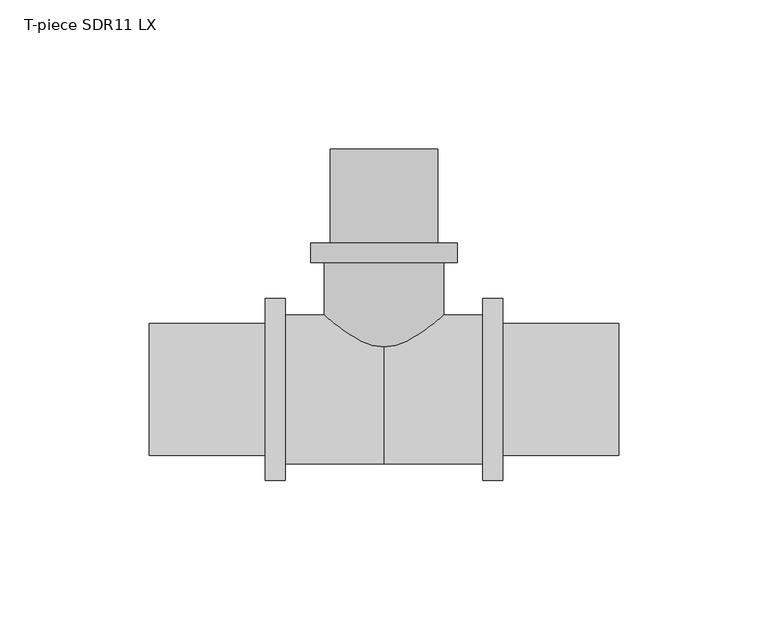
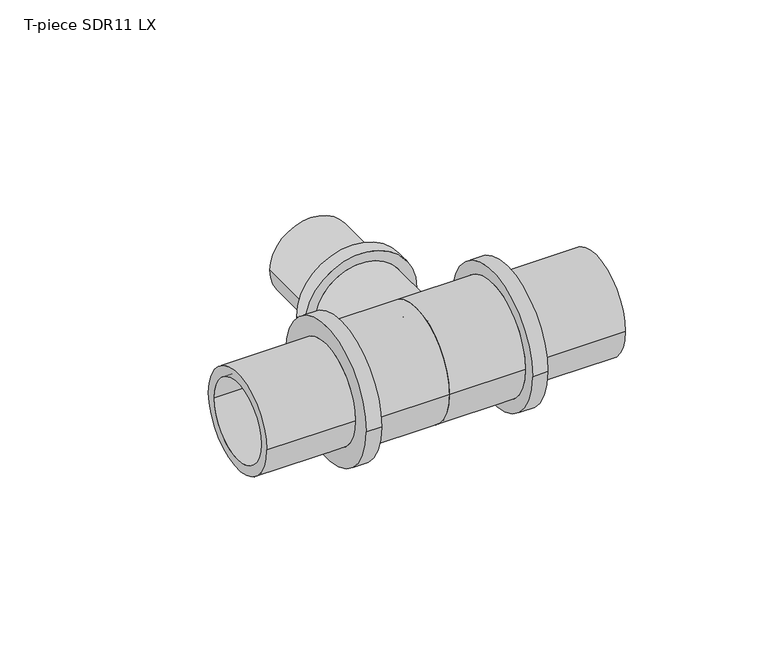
"""IFC4 building model written with IfcOpenShell, lengths in millimetres: pipe fitting geometry, T-piece SDR11 LX : T-piece LX SDR11 LX."""

from ifc_helpers import new_model, si_unit, point, frame, origin, place, context, project, spatial, polyline, circle_curve, ellipse_curve, trimmed, source, transform, mapped, element, save
from ifc_brep_helpers import plane_surface, cylinder_surface, revolved_surface, advanced_brep


def t_piece_sdr11_lx_b870d911(model_context):
    return source(origin(), model_context, "Body", "AdvancedBrep", [
        advanced_brep(
        [(20.0, 2.0957608, 0.0), (-20.0, 2.0957608, 0.0), (-20.0, 42.5, 0.0), (20.0, 42.5, 0.0), (13.75, 80.5, 0.0), (-13.75, 80.5, 0.0), (-13.75, 0.0, 0.0), (13.75, 0.0, 0.0), (18.0, 49.0, 0.0), (-18.0, 49.0, 0.0), (-18.0, 80.5, 0.0), (18.0, 80.5, 0.0), (24.5, 42.5, 0.0), (-24.5, 42.5, 0.0), (-24.5, 49.0, 0.0), (24.5, 49.0, 0.0)],
        [
            (0, 1, circle_curve(frame((0.0, 2.0957608, 0.0), z_axis=(0.0, 1.0, 0.0), x_axis=(-1.0, 0.0, 0.0)), 20.0)),
            (1, 2),
            (2, 3, circle_curve(frame((0.0, 42.5, 0.0), z_axis=(0.0, -1.0, 0.0), x_axis=(-1.0, 0.0, 0.0)), 20.0)),
            (3, 0),
            (4, 5, circle_curve(frame((0.0, 80.5, 0.0), z_axis=(0.0, 1.0, 0.0), x_axis=(-1.0, 0.0, 0.0)), 13.75)),
            (5, 6),
            (6, 7, circle_curve(frame((0.0, 0.0, 0.0), z_axis=(0.0, -1.0, 0.0), x_axis=(-1.0, 0.0, 0.0)), 13.75)),
            (7, 4),
            (8, 9, circle_curve(frame((0.0, 49.0, 0.0), z_axis=(0.0, 1.0, 0.0), x_axis=(-1.0, 0.0, 0.0)), 18.0)),
            (9, 10),
            (10, 11, circle_curve(frame((0.0, 80.5, 0.0), z_axis=(0.0, -1.0, 0.0), x_axis=(-1.0, 0.0, 0.0)), 18.0)),
            (11, 8),
            (12, 13, circle_curve(frame((0.0, 42.5, 0.0), z_axis=(0.0, 1.0, 0.0), x_axis=(-1.0, 0.0, 0.0)), 24.5)),
            (13, 14),
            (14, 15, circle_curve(frame((0.0, 49.0, 0.0), z_axis=(0.0, -1.0, 0.0), x_axis=(-1.0, 0.0, 0.0)), 24.5)),
            (15, 12),
            (12, 13, circle_curve(frame((0.0, 42.5, 0.0), z_axis=(0.0, -1.0, 0.0), x_axis=(1.0, 0.0, 0.0)), 24.5)),
            (2, 3, circle_curve(frame((0.0, 42.5, 0.0), z_axis=(0.0, 1.0, 0.0), x_axis=(1.0, 0.0, 0.0)), 20.0)),
            (1, 0, circle_curve(frame((0.0, 2.0957608, 0.0), z_axis=(0.0, 1.0, 0.0), x_axis=(1.0, 0.0, 0.0)), 20.0)),
            (5, 4, circle_curve(frame((0.0, 80.5, 0.0), z_axis=(0.0, 1.0, 0.0), x_axis=(1.0, 0.0, 0.0)), 13.75)),
            (7, 6, circle_curve(frame((0.0, 0.0, 0.0), z_axis=(0.0, -1.0, 0.0), x_axis=(1.0, 0.0, 0.0)), 13.75)),
            (10, 11, circle_curve(frame((0.0, 80.5, 0.0), z_axis=(0.0, 1.0, 0.0), x_axis=(1.0, 0.0, 0.0)), 18.0)),
            (9, 8, circle_curve(frame((0.0, 49.0, 0.0), z_axis=(0.0, 1.0, 0.0), x_axis=(1.0, 0.0, 0.0)), 18.0)),
            (14, 15, circle_curve(frame((0.0, 49.0, 0.0), z_axis=(0.0, 1.0, 0.0), x_axis=(1.0, 0.0, 0.0)), 24.5)),
            (6, 1, circle_curve(frame((-8.9962802, 24.5438821, 0.0), z_axis=(0.0, 0.0, -1.0), x_axis=(0.0, -1.0, 0.0)), 25.0)),
            (0, 7, circle_curve(frame((8.9962802, 24.5438821, 0.0), z_axis=(0.0, 0.0, -1.0), x_axis=(0.0, -1.0, 0.0)), 25.0)),
        ],
        [
            cylinder_surface(frame((0.0, 0.0, 0.0), z_axis=(0.0, -1.0, 0.0), x_axis=(-1.0, 0.0, 0.0)), 20.0),
            revolved_surface(polyline([(-13.75, 0.0, 0.0), (-13.75, 80.5, 0.0)]), (0.0, 0.0, 0.0), (0.0, -1.0, 0.0)),
            cylinder_surface(frame((0.0, 0.0, 0.0), z_axis=(0.0, -1.0, 0.0), x_axis=(-1.0, 0.0, 0.0)), 18.0),
            cylinder_surface(frame((0.0, 0.0, 0.0), z_axis=(0.0, -1.0, 0.0), x_axis=(-1.0, 0.0, 0.0)), 24.5),
            plane_surface(frame((0.0, 42.5, 0.0), z_axis=(0.0, -1.0, 0.0), x_axis=(1.0, 0.0, 0.0))),
            cylinder_surface(frame((0.0, 0.0, 0.0), z_axis=(0.0, -1.0, 0.0), x_axis=(1.0, 0.0, 0.0)), 20.0),
            revolved_surface(polyline([(13.75, 0.0, 0.0), (13.75, 80.5, 0.0)]), (0.0, 0.0, 0.0), (0.0, -1.0, 0.0)),
            plane_surface(frame((0.0, 80.5, 0.0), z_axis=(0.0, 1.0, 0.0), x_axis=(1.0, 0.0, 0.0))),
            cylinder_surface(frame((0.0, 0.0, 0.0), z_axis=(0.0, -1.0, 0.0), x_axis=(1.0, 0.0, 0.0)), 18.0),
            plane_surface(frame((0.0, 49.0, 0.0), z_axis=(0.0, 1.0, 0.0), x_axis=(1.0, 0.0, 0.0))),
            cylinder_surface(frame((0.0, 0.0, 0.0), z_axis=(0.0, -1.0, 0.0), x_axis=(1.0, 0.0, 0.0)), 24.5),
            revolved_surface(trimmed(ellipse_curve(frame((-8.9962802, 24.5438821, 0.0), z_axis=(0.0, 0.0, 1.0), x_axis=(0.0, -1.0, 0.0)), 25.0, 25.0), [point((-20.0, 2.0957608, 0.0))], [point((-13.75, 0.0, 0.0))], True, "CARTESIAN"), (0.0, 0.0, 0.0), (0.0, -1.0, 0.0)),
            revolved_surface(trimmed(ellipse_curve(frame((8.9962802, 24.5438821, 0.0), z_axis=(0.0, 0.0, -1.0), x_axis=(0.0, -1.0, 0.0)), 25.0, 25.0), [point((20.0, 2.0957608, 0.0))], [point((13.75, 0.0, 0.0))], True, "CARTESIAN"), (0.0, 0.0, 0.0), (0.0, -1.0, 0.0)),
        ],
        [
            (0, [[1, 2, 3, 4]]),
            (1, [[5, 6, 7, 8]]),
            (2, [[9, 10, 11, 12]]),
            (3, [[13, 14, 15, 16]]),
            (4, [[17, -13], [18, -3]]),
            (5, [[19, -4, -18, -2]]),
            (6, [[20, -8, 21, -6]]),
            (7, [[22, -11], [-20, -5]]),
            (8, [[23, -12, -22, -10]]),
            (9, [[24, -15], [-23, -9]]),
            (10, [[-17, -16, -24, -14]]),
            (11, [[-7, 25, -1, 26]]),
            (12, [[-21, -26, -19, -25]]),
        ],
    ),
        advanced_brep(
        [(33.1, 25.0, 0.0), (33.1, -25.0, 0.0), (0.0, -25.0, 0.0), (0.0, 25.0, 0.0), (0.0, 17.75, 0.0), (0.0, -17.75, 0.0), (78.6, -17.75, 0.0), (78.6, 17.75, 0.0), (78.6, 22.15, 0.0), (78.6, -22.15, 0.0), (39.8, -22.15, 0.0), (39.8, 22.15, 0.0), (39.8, 30.5, 0.0), (39.8, -30.5, 0.0), (33.1, -30.5, 0.0), (33.1, 30.5, 0.0)],
        [
            (0, 1, circle_curve(frame((33.1, 0.0, 0.0), z_axis=(-1.0, 0.0, 0.0), x_axis=(0.0, -1.0, 0.0)), 25.0)),
            (1, 2),
            (2, 3, circle_curve(frame((0.0, 0.0, 0.0), z_axis=(1.0, 0.0, 0.0), x_axis=(0.0, -1.0, 0.0)), 25.0)),
            (3, 0),
            (4, 5, circle_curve(frame((0.0, 0.0, 0.0), z_axis=(-1.0, 0.0, 0.0), x_axis=(0.0, -1.0, 0.0)), 17.75)),
            (5, 6),
            (6, 7, circle_curve(frame((78.6, 0.0, 0.0), z_axis=(1.0, 0.0, 0.0), x_axis=(0.0, -1.0, 0.0)), 17.75)),
            (7, 4),
            (8, 9, circle_curve(frame((78.6, 0.0, 0.0), z_axis=(-1.0, 0.0, 0.0), x_axis=(0.0, -1.0, 0.0)), 22.15)),
            (9, 10),
            (10, 11, circle_curve(frame((39.8, 0.0, 0.0), z_axis=(1.0, 0.0, 0.0), x_axis=(0.0, -1.0, 0.0)), 22.15)),
            (11, 8),
            (12, 13, circle_curve(frame((39.8, 0.0, 0.0), z_axis=(-1.0, 0.0, 0.0), x_axis=(0.0, -1.0, 0.0)), 30.5)),
            (13, 14),
            (14, 15, circle_curve(frame((33.1, 0.0, 0.0), z_axis=(1.0, 0.0, 0.0), x_axis=(0.0, -1.0, 0.0)), 30.5)),
            (15, 12),
            (14, 15, circle_curve(frame((33.1, 0.0, 0.0), z_axis=(-1.0, 0.0, 0.0), x_axis=(0.0, 1.0, 0.0)), 30.5)),
            (0, 1, circle_curve(frame((33.1, 0.0, 0.0), z_axis=(1.0, 0.0, 0.0), x_axis=(0.0, 1.0, 0.0)), 25.0)),
            (3, 2, circle_curve(frame((0.0, 0.0, 0.0), z_axis=(1.0, 0.0, 0.0), x_axis=(0.0, 1.0, 0.0)), 25.0)),
            (4, 5, circle_curve(frame((0.0, 0.0, 0.0), z_axis=(1.0, 0.0, 0.0), x_axis=(0.0, 1.0, 0.0)), 17.75)),
            (7, 6, circle_curve(frame((78.6, 0.0, 0.0), z_axis=(1.0, 0.0, 0.0), x_axis=(0.0, 1.0, 0.0)), 17.75)),
            (8, 9, circle_curve(frame((78.6, 0.0, 0.0), z_axis=(1.0, 0.0, 0.0), x_axis=(0.0, 1.0, 0.0)), 22.15)),
            (11, 10, circle_curve(frame((39.8, 0.0, 0.0), z_axis=(1.0, 0.0, 0.0), x_axis=(0.0, 1.0, 0.0)), 22.15)),
            (12, 13, circle_curve(frame((39.8, 0.0, 0.0), z_axis=(1.0, 0.0, 0.0), x_axis=(0.0, 1.0, 0.0)), 30.5)),
        ],
        [
            cylinder_surface(frame((0.0, 0.0, 0.0), z_axis=(1.0, 0.0, 0.0), x_axis=(0.0, -1.0, 0.0)), 25.0),
            revolved_surface(polyline([(78.6, -17.75, 0.0), (0.0, -17.75, 0.0)]), (0.0, 0.0, 0.0), (1.0, 0.0, 0.0)),
            cylinder_surface(frame((0.0, 0.0, 0.0), z_axis=(1.0, 0.0, 0.0), x_axis=(0.0, -1.0, 0.0)), 22.15),
            cylinder_surface(frame((0.0, 0.0, 0.0), z_axis=(1.0, 0.0, 0.0), x_axis=(0.0, -1.0, 0.0)), 30.5),
            plane_surface(frame((33.1, 0.0, 0.0), z_axis=(-1.0, 0.0, 0.0), x_axis=(0.0, 1.0, 0.0))),
            cylinder_surface(frame((0.0, 0.0, 0.0), z_axis=(1.0, 0.0, 0.0), x_axis=(0.0, 1.0, 0.0)), 25.0),
            plane_surface(frame((0.0, 0.0, 0.0), z_axis=(-1.0, 0.0, 0.0), x_axis=(0.0, 1.0, 0.0))),
            revolved_surface(polyline([(78.6, 17.75, 0.0), (0.0, 17.75, 0.0)]), (0.0, 0.0, 0.0), (1.0, 0.0, 0.0)),
            plane_surface(frame((78.6, 0.0, 0.0), z_axis=(1.0, 0.0, 0.0), x_axis=(0.0, 1.0, 0.0))),
            cylinder_surface(frame((0.0, 0.0, 0.0), z_axis=(1.0, 0.0, 0.0), x_axis=(0.0, 1.0, 0.0)), 22.15),
            plane_surface(frame((39.8, 0.0, 0.0), z_axis=(1.0, 0.0, 0.0), x_axis=(0.0, 1.0, 0.0))),
            cylinder_surface(frame((0.0, 0.0, 0.0), z_axis=(1.0, 0.0, 0.0), x_axis=(0.0, 1.0, 0.0)), 30.5),
        ],
        [
            (0, [[1, 2, 3, 4]]),
            (1, [[5, 6, 7, 8]]),
            (2, [[9, 10, 11, 12]]),
            (3, [[13, 14, 15, 16]]),
            (4, [[17, -15], [18, -1]]),
            (5, [[-18, -4, 19, -2]]),
            (6, [[-19, -3], [20, -5]]),
            (7, [[-20, -8, 21, -6]]),
            (8, [[22, -9], [-21, -7]]),
            (9, [[-22, -12, 23, -10]]),
            (10, [[24, -13], [-23, -11]]),
            (11, [[-24, -16, -17, -14]]),
        ],
    ),
        advanced_brep(
        [(0.0, 25.0, 0.0), (0.0, -25.0, 0.0), (-33.1, -25.0, 0.0), (-33.1, 25.0, 0.0), (-78.6, 17.75, 0.0), (-78.6, -17.75, 0.0), (0.0, -17.75, 0.0), (0.0, 17.75, 0.0), (-39.8, 22.15, 0.0), (-39.8, -22.15, 0.0), (-78.6, -22.15, 0.0), (-78.6, 22.15, 0.0), (-33.1, 30.5, 0.0), (-33.1, -30.5, 0.0), (-39.8, -30.5, 0.0), (-39.8, 30.5, 0.0)],
        [
            (0, 1, circle_curve(frame((0.0, 0.0, 0.0), z_axis=(-1.0, 0.0, 0.0), x_axis=(0.0, -1.0, 0.0)), 25.0)),
            (1, 2),
            (2, 3, circle_curve(frame((-33.1, 0.0, 0.0), z_axis=(1.0, 0.0, 0.0), x_axis=(0.0, -1.0, 0.0)), 25.0)),
            (3, 0),
            (4, 5, circle_curve(frame((-78.6, 0.0, 0.0), z_axis=(-1.0, 0.0, 0.0), x_axis=(0.0, -1.0, 0.0)), 17.75)),
            (5, 6),
            (6, 7, circle_curve(frame((0.0, 0.0, 0.0), z_axis=(1.0, 0.0, 0.0), x_axis=(0.0, -1.0, 0.0)), 17.75)),
            (7, 4),
            (8, 9, circle_curve(frame((-39.8, 0.0, 0.0), z_axis=(-1.0, 0.0, 0.0), x_axis=(0.0, -1.0, 0.0)), 22.15)),
            (9, 10),
            (10, 11, circle_curve(frame((-78.6, 0.0, 0.0), z_axis=(1.0, 0.0, 0.0), x_axis=(0.0, -1.0, 0.0)), 22.15)),
            (11, 8),
            (12, 13, circle_curve(frame((-33.1, 0.0, 0.0), z_axis=(-1.0, 0.0, 0.0), x_axis=(0.0, -1.0, 0.0)), 30.5)),
            (13, 14),
            (14, 15, circle_curve(frame((-39.8, 0.0, 0.0), z_axis=(1.0, 0.0, 0.0), x_axis=(0.0, -1.0, 0.0)), 30.5)),
            (15, 12),
            (12, 13, circle_curve(frame((-33.1, 0.0, 0.0), z_axis=(1.0, 0.0, 0.0), x_axis=(0.0, 1.0, 0.0)), 30.5)),
            (2, 3, circle_curve(frame((-33.1, 0.0, 0.0), z_axis=(-1.0, 0.0, 0.0), x_axis=(0.0, 1.0, 0.0)), 25.0)),
            (1, 0, circle_curve(frame((0.0, 0.0, 0.0), z_axis=(-1.0, 0.0, 0.0), x_axis=(0.0, 1.0, 0.0)), 25.0)),
            (6, 7, circle_curve(frame((0.0, 0.0, 0.0), z_axis=(-1.0, 0.0, 0.0), x_axis=(0.0, 1.0, 0.0)), 17.75)),
            (5, 4, circle_curve(frame((-78.6, 0.0, 0.0), z_axis=(-1.0, 0.0, 0.0), x_axis=(0.0, 1.0, 0.0)), 17.75)),
            (10, 11, circle_curve(frame((-78.6, 0.0, 0.0), z_axis=(-1.0, 0.0, 0.0), x_axis=(0.0, 1.0, 0.0)), 22.15)),
            (9, 8, circle_curve(frame((-39.8, 0.0, 0.0), z_axis=(-1.0, 0.0, 0.0), x_axis=(0.0, 1.0, 0.0)), 22.15)),
            (14, 15, circle_curve(frame((-39.8, 0.0, 0.0), z_axis=(-1.0, 0.0, 0.0), x_axis=(0.0, 1.0, 0.0)), 30.5)),
        ],
        [
            cylinder_surface(frame((0.0, 0.0, 0.0), z_axis=(1.0, 0.0, 0.0), x_axis=(0.0, -1.0, 0.0)), 25.0),
            revolved_surface(polyline([(0.0, -17.75, 0.0), (-78.6, -17.75, 0.0)]), (0.0, 0.0, 0.0), (1.0, 0.0, 0.0)),
            cylinder_surface(frame((0.0, 0.0, 0.0), z_axis=(1.0, 0.0, 0.0), x_axis=(0.0, -1.0, 0.0)), 22.15),
            cylinder_surface(frame((0.0, 0.0, 0.0), z_axis=(1.0, 0.0, 0.0), x_axis=(0.0, -1.0, 0.0)), 30.5),
            plane_surface(frame((-33.1, 0.0, 0.0), z_axis=(1.0, 0.0, 0.0), x_axis=(0.0, 1.0, 0.0))),
            cylinder_surface(frame((0.0, 0.0, 0.0), z_axis=(1.0, 0.0, 0.0), x_axis=(0.0, 1.0, 0.0)), 25.0),
            plane_surface(frame((0.0, 0.0, 0.0), z_axis=(1.0, 0.0, 0.0), x_axis=(0.0, 1.0, 0.0))),
            revolved_surface(polyline([(0.0, 17.75, 0.0), (-78.6, 17.75, 0.0)]), (0.0, 0.0, 0.0), (1.0, 0.0, 0.0)),
            plane_surface(frame((-78.6, 0.0, 0.0), z_axis=(-1.0, 0.0, 0.0), x_axis=(0.0, 1.0, 0.0))),
            cylinder_surface(frame((0.0, 0.0, 0.0), z_axis=(1.0, 0.0, 0.0), x_axis=(0.0, 1.0, 0.0)), 22.15),
            plane_surface(frame((-39.8, 0.0, 0.0), z_axis=(-1.0, 0.0, 0.0), x_axis=(0.0, 1.0, 0.0))),
            cylinder_surface(frame((0.0, 0.0, 0.0), z_axis=(1.0, 0.0, 0.0), x_axis=(0.0, 1.0, 0.0)), 30.5),
        ],
        [
            (0, [[1, 2, 3, 4]]),
            (1, [[5, 6, 7, 8]]),
            (2, [[9, 10, 11, 12]]),
            (3, [[13, 14, 15, 16]]),
            (4, [[17, -13], [18, -3]]),
            (5, [[19, -4, -18, -2]]),
            (6, [[-19, -1], [20, -7]]),
            (7, [[21, -8, -20, -6]]),
            (8, [[22, -11], [-21, -5]]),
            (9, [[23, -12, -22, -10]]),
            (10, [[24, -15], [-23, -9]]),
            (11, [[-17, -16, -24, -14]]),
        ],
    ),
    ])


if __name__ == "__main__":
    model = new_model("IFC4")
    model_context = context("Model", 3, world=origin())
    ifc_project = project(units=[si_unit("LENGTHUNIT", "METRE", prefix="MILLI")], contexts=[model_context])
    site = spatial("IfcSite", under=ifc_project)
    building = spatial("IfcBuilding", under=site)
    placement = place(None, origin())
    t_piece_sdr11_lx_shape = t_piece_sdr11_lx_b870d911(model_context)
    element("IfcPipeFitting", 1, ObjectType="T-piece SDR11 LX : T-piece LX SDR11 LX", at=placement, inside=building, context=model_context, shape_type="MappedRepresentation", body=[
        mapped(t_piece_sdr11_lx_shape, transform((0.0, 0.0, 0.0), x_axis=(1.0, 0.0, 0.0), y_axis=(0.0, 1.0, 0.0), z_axis=(0.0, 0.0, 1.0))),
    ])
    save(model, "model.ifc")
